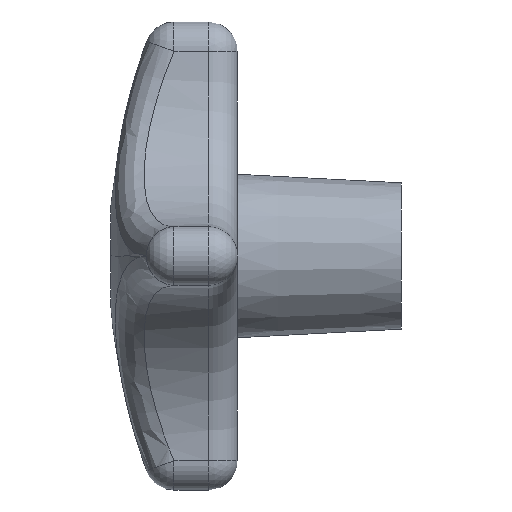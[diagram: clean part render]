
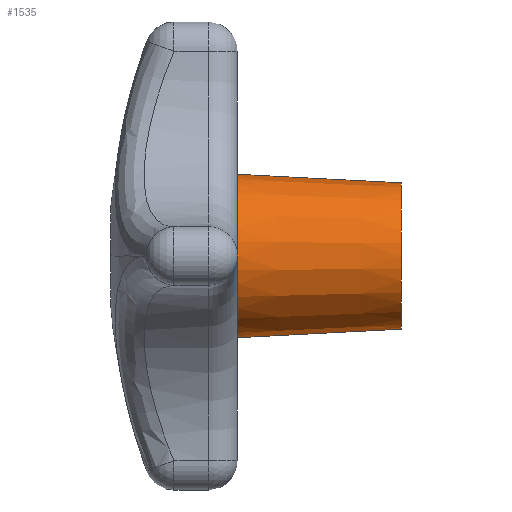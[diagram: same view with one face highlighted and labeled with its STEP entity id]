
A CAD part, left-side view. The second image highlights one B-rep face of the part: STEP entity #1535.
In plain terms, the highlighted conical face has half-angle 3 degrees and reference radius 12.5 mm.
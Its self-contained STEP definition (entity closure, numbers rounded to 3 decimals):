
#158 = EDGE_CURVE ( 'NONE', #1519, #198, #1631, .T. ) ;
#198 = VERTEX_POINT ( 'NONE', #1627 ) ;
#1519 = VERTEX_POINT ( 'NONE', #3000 ) ;
#1520 = VERTEX_POINT ( 'NONE', #2999 ) ;
#1522 = EDGE_CURVE ( 'NONE', #1520, #1523, #2998, .T. ) ;
#1523 = VERTEX_POINT ( 'NONE', #2994 ) ;
#1534 = EDGE_CURVE ( 'NONE', #1523, #198, #3711, .T. ) ;
#1535 = ADVANCED_FACE ( 'NONE', ( #3706 ), #3705, .T. ) ;
#1536 = EDGE_LOOP ( 'NONE', ( #1537, #1538, #1545, #1546 ) ) ;
#1537 = ORIENTED_EDGE ( 'NONE', *, *, #1522, .F. ) ;
#1538 = ORIENTED_EDGE ( 'NONE', *, *, #1539, .T. ) ;
#1539 = EDGE_CURVE ( 'NONE', #1520, #1519, #3700, .T. ) ;
#1545 = ORIENTED_EDGE ( 'NONE', *, *, #158, .T. ) ;
#1546 = ORIENTED_EDGE ( 'NONE', *, *, #1534, .F. ) ;
#1627 = CARTESIAN_POINT ( 'NONE',  ( 0., 0., 13.967 ) ) ;
#1628 = DIRECTION ( 'NONE',  ( 0., 0.999, 0.052 ) ) ;
#1629 = VECTOR ( 'NONE', #1628, 1000. ) ;
#1630 = CARTESIAN_POINT ( 'NONE',  ( 0., -28., 12.5 ) ) ;
#1631 = LINE ( 'NONE', #1630, #1629 ) ;
#2994 = CARTESIAN_POINT ( 'NONE',  ( 0., 0., -13.967 ) ) ;
#2995 = DIRECTION ( 'NONE',  ( 0., 0.999, -0.052 ) ) ;
#2996 = VECTOR ( 'NONE', #2995, 1000. ) ;
#2997 = CARTESIAN_POINT ( 'NONE',  ( 0., -28., -12.5 ) ) ;
#2998 = LINE ( 'NONE', #2997, #2996 ) ;
#2999 = CARTESIAN_POINT ( 'NONE',  ( 0., -28., -12.5 ) ) ;
#3000 = CARTESIAN_POINT ( 'NONE',  ( 0., -28., 12.5 ) ) ;
#3696 = DIRECTION ( 'NONE',  ( 0., 0., 1. ) ) ;
#3697 = DIRECTION ( 'NONE',  ( 0., 1., 0. ) ) ;
#3698 = CARTESIAN_POINT ( 'NONE',  ( 0., -28., 0. ) ) ;
#3699 = AXIS2_PLACEMENT_3D ( 'NONE', #3698, #3697, #3696 ) ;
#3700 = CIRCLE ( 'NONE', #3699, 12.5 ) ;
#3701 = DIRECTION ( 'NONE',  ( 0., 0., 1. ) ) ;
#3702 = DIRECTION ( 'NONE',  ( 0., 1., 0. ) ) ;
#3703 = AXIS2_PLACEMENT_3D ( 'NONE', #3704, #3702, #3701 ) ;
#3704 = CARTESIAN_POINT ( 'NONE',  ( 0., -28., 0. ) ) ;
#3705 = CONICAL_SURFACE ( 'NONE', #3703, 12.5, 0.052 ) ;
#3706 = FACE_OUTER_BOUND ( 'NONE', #1536, .T. ) ;
#3707 = DIRECTION ( 'NONE',  ( 0., 0., 1. ) ) ;
#3708 = DIRECTION ( 'NONE',  ( 0., 1., 0. ) ) ;
#3709 = CARTESIAN_POINT ( 'NONE',  ( 0., 0., 0. ) ) ;
#3710 = AXIS2_PLACEMENT_3D ( 'NONE', #3709, #3708, #3707 ) ;
#3711 = CIRCLE ( 'NONE', #3710, 13.967 ) ;
